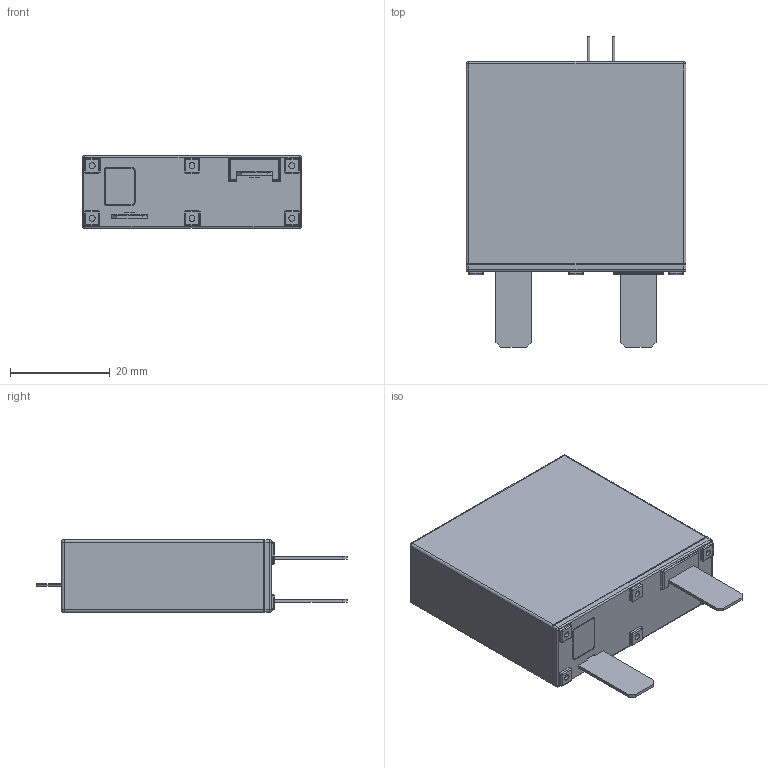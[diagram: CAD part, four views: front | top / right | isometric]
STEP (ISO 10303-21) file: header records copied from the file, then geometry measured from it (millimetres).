
FILE_DESCRIPTION((''),'2;1');
FILE_NAME('TFMOV40K-14-IT-20200620','2020-06-24T',('set'),(''),'PRO/ENGINEER BY PARAMETRIC TECHNOLOGY CORPORATION, 2012310','PRO/ENGINEER BY PARAMETRIC TECHNOLOGY CORPORATION, 2012310','');
FILE_SCHEMA(('CONFIG_CONTROL_DESIGN','SHAPE_APPEARANCE_LAYERS_GROUPS'));
Length unit declared in the file: millimetre
Products named in the file (1): TFMOV40K-14-IT-20200620
Bounding box: 44 x 62.2 x 14.6 mm (x, y, z)
Volume: 27099.2 mm3; surface area: 6917.7 mm2
Topology: 1 solids, 2 shells, 264 faces, 600 edges, 357 vertices
Faces by surface type: cylinder 112, plane 109, sphere 30, torus 8, bspline 5
Entity records: 9547 total; most frequent: CARTESIAN_POINT 1505, DIRECTION 1292, ORIENTED_EDGE 1200, PRESENTATION_STYLE_ASSIGNMENT 618, STYLED_ITEM 601, CURVE_STYLE 600, EDGE_CURVE 600, AXIS2_PLACEMENT_3D 461
